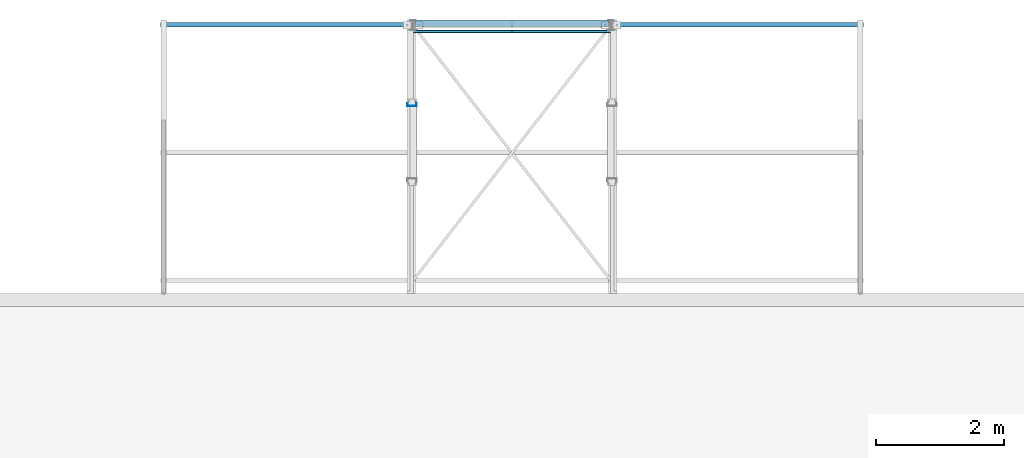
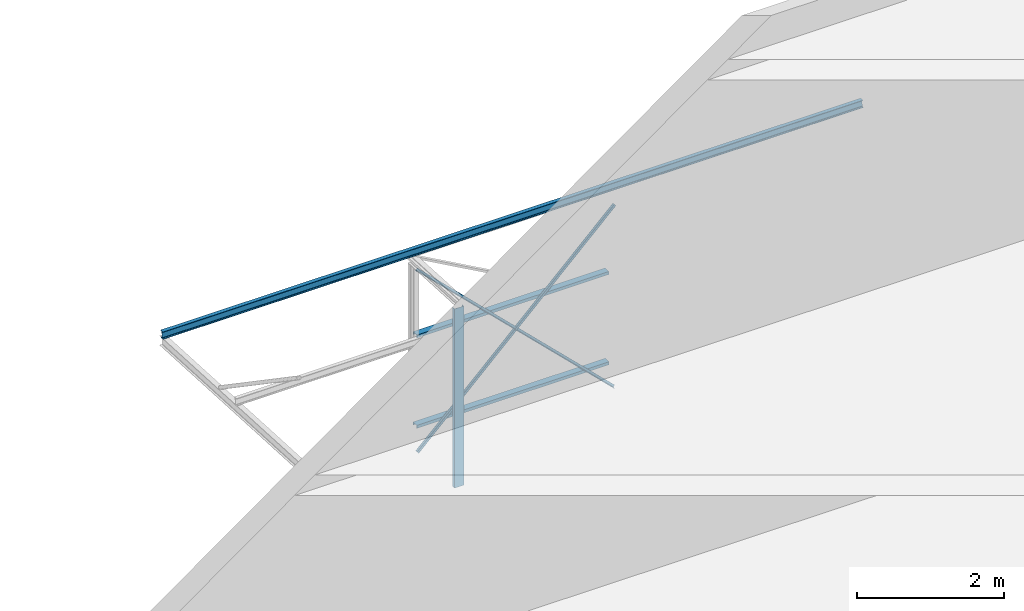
# One storey, part 35 of 123: 4 beams, 2 members, 6 elements without a shape of their own.
"""IFC2X3 building model written with IfcOpenShell, lengths in millimetres."""

from ifc_helpers import new_model, si_unit, frame, origin_with_axes, origin_2d_with_axis, place, context, subcontext, project, spatial, i_section, l_section, u_section, extrude, material, type_object, element, aggregate, save


model = new_model("IFC2X3")

# Units and contexts
model_context = context("Model", 3, precision=1e-05, world=origin_with_axes())
body_context = subcontext(model_context, "Body", "Model", "MODEL_VIEW")
ifc_project = project(units=[si_unit("LENGTHUNIT", "METRE", prefix="MILLI"), si_unit("AREAUNIT", "SQUARE_METRE"), si_unit("VOLUMEUNIT", "CUBIC_METRE"), si_unit("MASSUNIT", "GRAM", prefix="KILO"), si_unit("TIMEUNIT", "SECOND"), si_unit("PLANEANGLEUNIT", "RADIAN"), si_unit("SOLIDANGLEUNIT", "STERADIAN"), si_unit("THERMODYNAMICTEMPERATUREUNIT", "DEGREE_CELSIUS"), si_unit("LUMINOUSINTENSITYUNIT", "LUMEN")], contexts=[model_context])

# Site, building, storey
site_placement = place(None, origin_with_axes())
site = spatial("IfcSite", under=ifc_project, at=site_placement, Name="Undefined", CompositionType="ELEMENT")
building_placement = place(site_placement, origin_with_axes())
building = spatial("IfcBuilding", under=site, at=building_placement, Name="Undefined", CompositionType="ELEMENT")
storey_placement = place(building_placement, origin_with_axes())
storey = spatial("IfcBuildingStorey", under=building, at=storey_placement, Name="Undefined", CompositionType="ELEMENT", Elevation=0.0)

# Assembly, beam
assembly_1_placement = place(storey_placement, origin_with_axes())
assembly_1 = element("IfcElementAssembly", 1, at=assembly_1_placement, inside=storey, Name="Steel Assembly", AssemblyPlace="NOTDEFINED", PredefinedType="RIGID_FRAME")
ifc_material_1 = material(Name="STEEL/S235-E24")
beam_type_1 = type_object("IfcBeamType", Name="UPF-100*50*4", PredefinedType="NOTDEFINED")
beam_1_placement = place(assembly_1_placement, frame((31988.9999688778, 29270.0000217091, 1625.0), z_axis=(0.0, 1.0, 0.0), x_axis=(-1.0, 0.0, 0.0)))
beam_1 = element("IfcBeam", 2, at=beam_1_placement, type_object=beam_type_1, material=ifc_material_1, Name="LISSE", ObjectType="UPF-100*50*4", context=body_context, shape_type="SweptSolid", body=[
    extrude(u_section(Depth=100.0, FlangeWidth=50.0, WebThickness=4.0, FlangeThickness=4.0, at=origin_2d_with_axis()), frame((3017.99999999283, 0.0, 0.0), z_axis=(-1.0, 0.0, 0.0), x_axis=(0.0, -1.0, 0.0)), (0.0, 0.0, 1.0), 3018.0),
])
aggregate(assembly_1, [beam_1])

assembly_2_placement = place(storey_placement, origin_with_axes())
assembly_2 = element("IfcElementAssembly", 3, at=assembly_2_placement, inside=storey, Name="Steel Assembly", AssemblyPlace="NOTDEFINED", PredefinedType="RIGID_FRAME")
beam_2_placement = place(assembly_2_placement, frame((31988.9999688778, 29270.0000217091, 124.999999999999), z_axis=(0.0, 1.0, 0.0), x_axis=(-1.0, 0.0, 0.0)))
beam_2 = element("IfcBeam", 4, at=beam_2_placement, type_object=beam_type_1, material=ifc_material_1, Name="LISSE", ObjectType="UPF-100*50*4", context=body_context, shape_type="SweptSolid", body=[
    extrude(u_section(Depth=100.0, FlangeWidth=50.0, WebThickness=4.0, FlangeThickness=4.0, at=origin_2d_with_axis()), frame((3017.99999999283, 0.0, 0.0), z_axis=(-1.0, 0.0, 0.0), x_axis=(0.0, -1.0, 0.0)), (0.0, 0.0, 1.0), 3018.0),
])
aggregate(assembly_2, [beam_2])

# Assembly, member
assembly_3_placement = place(storey_placement, origin_with_axes())
assembly_3 = element("IfcElementAssembly", 5, at=assembly_3_placement, inside=storey, Name="Steel Assembly", AssemblyPlace="NOTDEFINED", PredefinedType="RIGID_FRAME")
member_type = type_object("IfcMemberType", Name="L40*4", PredefinedType="NOTDEFINED")
member_1_placement = place(assembly_3_placement, frame((32029.9999702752, 29139.9999987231, -229.999999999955), z_axis=(0.0, -1.0, 0.0), x_axis=(-0.715134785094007, 0.0, 0.698986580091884)))
member_1 = element("IfcMember", 6, at=member_1_placement, type_object=member_type, material=ifc_material_1, Name="STABILTE", ObjectType="L40*4", context=body_context, shape_type="SweptSolid", body=[
    extrude(l_section(Depth=40.0, Width=40.0, Thickness=4.0, FilletRadius=6.0, EdgeRadius=3.0, at=origin_2d_with_axis()), frame((4334.84717117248, 0.0, 0.0), z_axis=(-1.0, 0.0, 0.0), x_axis=(0.0, -1.0, 0.0)), (0.0, 0.0, 1.0), 4334.8),
])
aggregate(assembly_3, [member_1])

assembly_4_placement = place(storey_placement, origin_with_axes())
assembly_4 = element("IfcElementAssembly", 7, at=assembly_4_placement, inside=storey, Name="Steel Assembly", AssemblyPlace="NOTDEFINED", PredefinedType="RIGID_FRAME")
member_2_placement = place(assembly_4_placement, frame((28929.999968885, 29139.9999987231, -230.0), z_axis=(-0.698986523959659, 0.0, 0.715134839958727), x_axis=(0.715134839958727, 0.0, 0.698986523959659)))
member_2 = element("IfcMember", 8, at=member_2_placement, type_object=member_type, material=ifc_material_1, Name="STABILTE", ObjectType="L40*4", context=body_context, shape_type="SweptSolid", body=[
    extrude(l_section(Depth=40.0, Width=40.0, Thickness=4.0, FilletRadius=6.0, EdgeRadius=3.0, at=origin_2d_with_axis()), frame((4334.84683850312, 0.0, 0.0), z_axis=(-1.0, 0.0, 0.0), x_axis=(0.0, -1.0, 0.0)), (0.0, 0.0, 1.0), 4334.8),
])
aggregate(assembly_4, [member_2])

# Assembly, beam
assembly_5_placement = place(storey_placement, origin_with_axes())
assembly_5 = element("IfcElementAssembly", 9, at=assembly_5_placement, inside=storey, Name="Steel Assembly", AssemblyPlace="NOTDEFINED", PredefinedType="RIGID_FRAME")
beam_type_2 = type_object("IfcBeamType", Name="UPF-150*50*5", PredefinedType="NOTDEFINED")
beam_3_placement = place(assembly_5_placement, frame((28914.9999688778, 27994.9999782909, 2886.30445630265), z_axis=(-1.0, 0.0, 0.0), x_axis=(0.0, 0.0, -1.0)))
beam_3 = element("IfcBeam", 10, at=beam_3_placement, type_object=beam_type_2, material=ifc_material_1, Name="MONTANT", ObjectType="UPF-150*50*5", context=body_context, shape_type="SweptSolid", body=[
    extrude(u_section(Depth=150.0, FlangeWidth=50.0, WebThickness=5.0, FlangeThickness=5.0, at=origin_2d_with_axis()), frame((2976.30445630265, 0.0, 0.0), z_axis=(-1.0, 0.0, 0.0), x_axis=(0.0, -1.0, 0.0)), (0.0, 0.0, 1.0), 2976.3),
])
aggregate(assembly_5, [beam_3])

assembly_6_placement = place(storey_placement, origin_with_axes())
assembly_6 = element("IfcElementAssembly", 11, at=assembly_6_placement, inside=storey, Name="Steel Assembly", AssemblyPlace="NOTDEFINED", PredefinedType="RIGID_FRAME")
ifc_material_2 = material(Name="STEEL/S275-E28")
beam_type_3 = type_object("IfcBeamType", Name="IPE120", PredefinedType="NOTDEFINED")
beam_4_placement = place(assembly_6_placement, frame((24979.999968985, 29243.1385236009, 3039.91785441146), z_axis=(0.0, 0.0523092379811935, 0.998630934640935), x_axis=(1.0, 0.0, 0.0)))
beam_4 = element("IfcBeam", 12, at=beam_4_placement, type_object=beam_type_3, material=ifc_material_2, Name="PANNE", ObjectType="IPE120", context=body_context, shape_type="SweptSolid", body=[
    extrude(i_section(OverallWidth=64.0, OverallDepth=120.0, WebThickness=4.400000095, FlangeThickness=6.300000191, FilletRadius=7.0, at=origin_2d_with_axis()), frame((11000.0, -9.09898673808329e-21, 0.0), z_axis=(-1.0, 0.0, 0.0), x_axis=(0.0, -1.0, 0.0)), (0.0, 0.0, 1.0), 11000.0),
])
aggregate(assembly_6, [beam_4])

save(model, "model.ifc")
